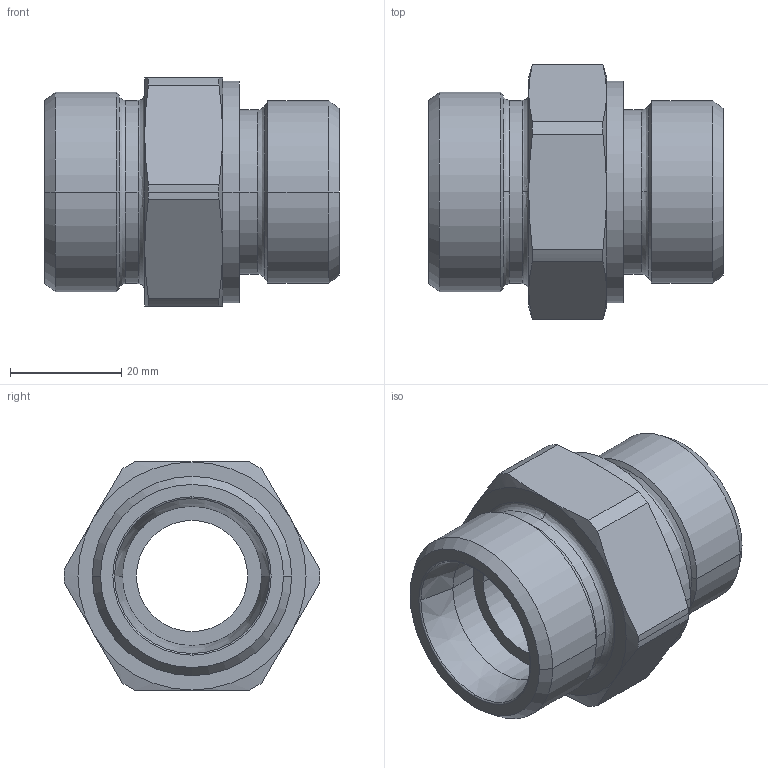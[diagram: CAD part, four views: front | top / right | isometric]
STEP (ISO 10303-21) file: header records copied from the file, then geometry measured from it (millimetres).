
FILE_DESCRIPTION((''),'2;1');
FILE_NAME('100621.stp','2007-10-30T15:03:44',(''),(''),'AutoCAD STEP 2000i','AutoCAD 2000i',', , ');
FILE_SCHEMA(('CONFIG_CONTROL_DESIGN'));
Length unit declared in the file: millimetre
Products named in the file (2): 100621.0; CHIAVE SMUSSATA#0
Assembly tree (1 placements, depth 2):
  100621.0
    CHIAVE SMUSSATA#0
Bounding box: 53 x 45.9 x 41 mm (x, y, z)
Volume: 35729.7 mm3; surface area: 12198.1 mm2
Topology: 1 solids, 1 shells, 73 faces, 178 edges, 112 vertices
Faces by surface type: cylinder 24, cone 24, plane 13, bspline 10, torus 2
Entity records: 2673 total; most frequent: CARTESIAN_POINT 853, DIRECTION 396, ORIENTED_EDGE 356, EDGE_CURVE 178, AXIS2_PLACEMENT_3D 177, VERTEX_POINT 112, CIRCLE 112, EDGE_LOOP 80
